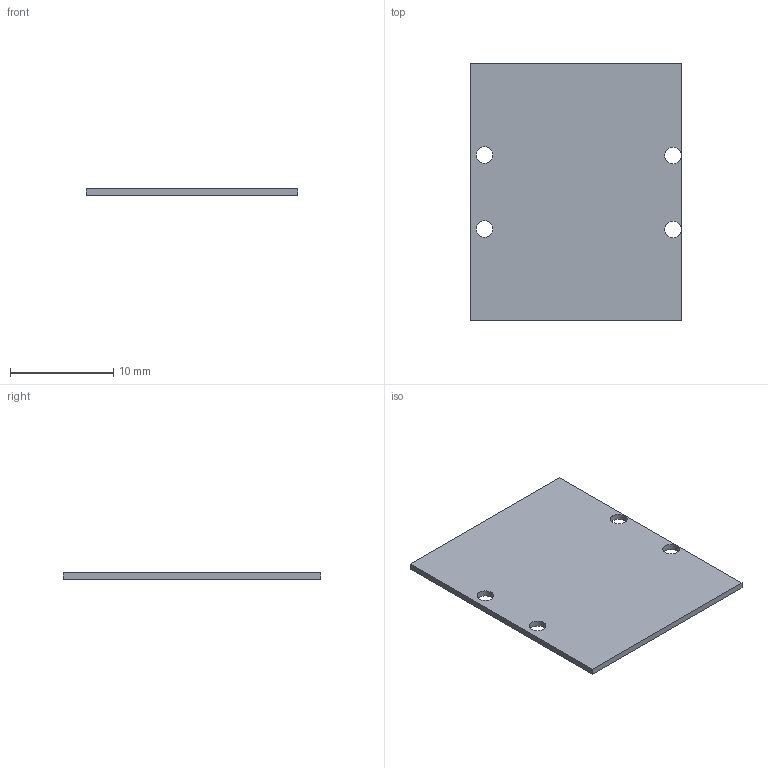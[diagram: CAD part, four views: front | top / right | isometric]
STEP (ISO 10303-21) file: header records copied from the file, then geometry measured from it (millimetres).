
FILE_DESCRIPTION(('KiCad electronic assembly'),'2;1');
FILE_NAME('HPF_2_GHz.step','2024-04-08T18:28:53',('Pcbnew'),('Kicad'), 'Open CASCADE STEP processor 7.5','KiCad to STEP converter','Unknown' );
FILE_SCHEMA(('AUTOMOTIVE_DESIGN { 1 0 10303 214 1 1 1 1 }'));
Length unit declared in the file: millimetre
Products named in the file (2): HPF_2_GHz 1; HPF_2_GHz PCB
Assembly tree (1 placements, depth 2):
  HPF_2_GHz 1
    HPF_2_GHz PCB
Bounding box: 20.5 x 25 x 0.6 mm (x, y, z)
Volume: 301.7 mm3; surface area: 1075.4 mm2
Topology: 1 solids, 1 shells, 10 faces, 24 edges, 16 vertices
Faces by surface type: plane 6, cylinder 4
Full cylindrical faces by diameter (mm): 1.6 x4
Entity records: 671 total; most frequent: DIRECTION 104, CARTESIAN_POINT 100, LINE 56, VECTOR 56, ORIENTED_EDGE 48, PCURVE 48, DEFINITIONAL_REPRESENTATION 48, EDGE_CURVE 24
